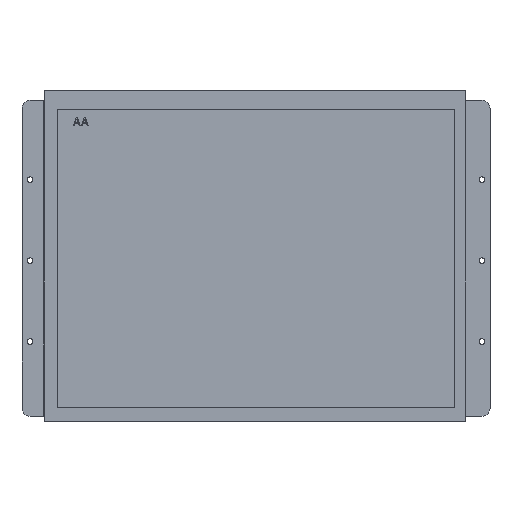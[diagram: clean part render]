
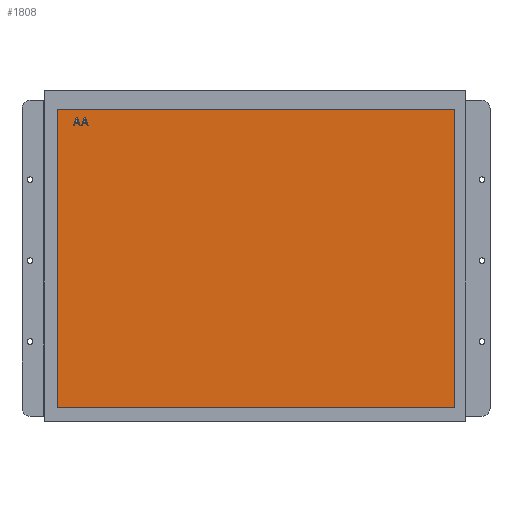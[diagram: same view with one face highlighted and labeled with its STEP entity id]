
A CAD part, top view. The second image highlights one B-rep face of the part: STEP entity #1808.
In plain terms, the highlighted planar face has unit normal (0, 0, 1).
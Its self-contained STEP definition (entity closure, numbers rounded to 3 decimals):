
#530=DIRECTION('',(0.,-1.,0.));
#531=VECTOR('',#530,184.32);
#532=CARTESIAN_POINT('',(-122.88,92.15,6.55));
#533=LINE('',#532,#531);
#534=DIRECTION('',(-1.,0.,0.));
#535=VECTOR('',#534,245.76);
#536=CARTESIAN_POINT('',(122.88,92.15,6.55));
#537=LINE('',#536,#535);
#538=DIRECTION('',(0.,1.,0.));
#539=VECTOR('',#538,184.32);
#540=CARTESIAN_POINT('',(122.88,-92.17,6.55));
#541=LINE('',#540,#539);
#542=DIRECTION('',(1.,0.,0.));
#543=VECTOR('',#542,245.76);
#544=CARTESIAN_POINT('',(-122.88,-92.17,6.55));
#545=LINE('',#544,#543);
#546=DIRECTION('',(0.316,-0.949,0.));
#547=VECTOR('',#546,5.27);
#548=CARTESIAN_POINT('',(-110.38,87.15,6.55));
#549=LINE('',#548,#547);
#550=DIRECTION('',(1.,0.,0.));
#551=VECTOR('',#550,0.833);
#552=CARTESIAN_POINT('',(-111.213,87.15,6.55));
#553=LINE('',#552,#551);
#554=DIRECTION('',(0.316,0.949,0.));
#555=VECTOR('',#554,5.27);
#556=CARTESIAN_POINT('',(-112.88,82.15,6.55));
#557=LINE('',#556,#555);
#558=DIRECTION('',(-1.,0.,0.));
#559=VECTOR('',#558,0.625);
#560=CARTESIAN_POINT('',(-112.255,82.15,6.55));
#561=LINE('',#560,#559);
#562=DIRECTION('',(-0.31,-0.951,0.));
#563=VECTOR('',#562,1.343);
#564=CARTESIAN_POINT('',(-111.838,83.427,6.55));
#565=LINE('',#564,#563);
#566=DIRECTION('',(-1.,0.,0.));
#567=VECTOR('',#566,2.083);
#568=CARTESIAN_POINT('',(-109.755,83.427,6.55));
#569=LINE('',#568,#567);
#570=DIRECTION('',(-0.31,0.951,0.));
#571=VECTOR('',#570,1.343);
#572=CARTESIAN_POINT('',(-109.338,82.15,6.55));
#573=LINE('',#572,#571);
#574=DIRECTION('',(-1.,0.,0.));
#575=VECTOR('',#574,0.625);
#576=CARTESIAN_POINT('',(-108.713,82.15,6.55));
#577=LINE('',#576,#575);
#590=DIRECTION('',(0.316,-0.949,0.));
#591=VECTOR('',#590,5.27);
#592=CARTESIAN_POINT('',(-105.38,87.15,6.55));
#593=LINE('',#592,#591);
#594=DIRECTION('',(1.,0.,0.));
#595=VECTOR('',#594,0.833);
#596=CARTESIAN_POINT('',(-106.213,87.15,6.55));
#597=LINE('',#596,#595);
#598=DIRECTION('',(0.316,0.949,0.));
#599=VECTOR('',#598,5.27);
#600=CARTESIAN_POINT('',(-107.88,82.15,6.55));
#601=LINE('',#600,#599);
#602=DIRECTION('',(-1.,0.,0.));
#603=VECTOR('',#602,0.625);
#604=CARTESIAN_POINT('',(-107.255,82.15,6.55));
#605=LINE('',#604,#603);
#606=DIRECTION('',(-0.31,-0.951,0.));
#607=VECTOR('',#606,1.343);
#608=CARTESIAN_POINT('',(-106.838,83.427,6.55));
#609=LINE('',#608,#607);
#610=DIRECTION('',(-1.,0.,0.));
#611=VECTOR('',#610,2.083);
#612=CARTESIAN_POINT('',(-104.755,83.427,6.55));
#613=LINE('',#612,#611);
#614=DIRECTION('',(-0.31,0.951,0.));
#615=VECTOR('',#614,1.343);
#616=CARTESIAN_POINT('',(-104.338,82.15,6.55));
#617=LINE('',#616,#615);
#618=DIRECTION('',(-1.,0.,0.));
#619=VECTOR('',#618,0.625);
#620=CARTESIAN_POINT('',(-103.713,82.15,6.55));
#621=LINE('',#620,#619);
#810=CARTESIAN_POINT('',(-122.88,92.15,6.55));
#811=CARTESIAN_POINT('',(-122.88,-92.17,6.55));
#812=VERTEX_POINT('',#810);
#813=VERTEX_POINT('',#811);
#814=CARTESIAN_POINT('',(122.88,-92.17,6.55));
#815=VERTEX_POINT('',#814);
#816=CARTESIAN_POINT('',(122.88,92.15,6.55));
#817=VERTEX_POINT('',#816);
#826=CARTESIAN_POINT('',(-110.38,87.15,6.55));
#827=CARTESIAN_POINT('',(-108.713,82.15,6.55));
#828=VERTEX_POINT('',#826);
#829=VERTEX_POINT('',#827);
#830=CARTESIAN_POINT('',(-109.338,82.15,6.55));
#831=VERTEX_POINT('',#830);
#832=CARTESIAN_POINT('',(-109.755,83.427,6.55));
#833=VERTEX_POINT('',#832);
#834=CARTESIAN_POINT('',(-111.838,83.427,6.55));
#835=VERTEX_POINT('',#834);
#836=CARTESIAN_POINT('',(-112.255,82.15,6.55));
#837=VERTEX_POINT('',#836);
#838=CARTESIAN_POINT('',(-112.88,82.15,6.55));
#839=VERTEX_POINT('',#838);
#840=CARTESIAN_POINT('',(-111.213,87.15,6.55));
#841=VERTEX_POINT('',#840);
#848=CARTESIAN_POINT('',(-105.38,87.15,6.55));
#849=CARTESIAN_POINT('',(-103.713,82.15,6.55));
#850=VERTEX_POINT('',#848);
#851=VERTEX_POINT('',#849);
#852=CARTESIAN_POINT('',(-104.338,82.15,6.55));
#853=VERTEX_POINT('',#852);
#854=CARTESIAN_POINT('',(-104.755,83.427,6.55));
#855=VERTEX_POINT('',#854);
#856=CARTESIAN_POINT('',(-106.838,83.427,6.55));
#857=VERTEX_POINT('',#856);
#858=CARTESIAN_POINT('',(-107.255,82.15,6.55));
#859=VERTEX_POINT('',#858);
#860=CARTESIAN_POINT('',(-107.88,82.15,6.55));
#861=VERTEX_POINT('',#860);
#862=CARTESIAN_POINT('',(-106.213,87.15,6.55));
#863=VERTEX_POINT('',#862);
#1761=CARTESIAN_POINT('',(-131.,-100.61,6.55));
#1762=DIRECTION('',(0.,0.,1.));
#1763=DIRECTION('',(1.,0.,0.));
#1764=AXIS2_PLACEMENT_3D('',#1761,#1762,#1763);
#1765=PLANE('',#1764);
#1766=ORIENTED_EDGE('',*,*,#1713,.F.);
#1767=ORIENTED_EDGE('',*,*,#1728,.F.);
#1768=ORIENTED_EDGE('',*,*,#1742,.F.);
#1769=ORIENTED_EDGE('',*,*,#1755,.F.);
#1770=EDGE_LOOP('',(#1766,#1767,#1768,#1769));
#1771=FACE_OUTER_BOUND('',#1770,.F.);
#1773=ORIENTED_EDGE('',*,*,#1772,.F.);
#1775=ORIENTED_EDGE('',*,*,#1774,.F.);
#1777=ORIENTED_EDGE('',*,*,#1776,.F.);
#1779=ORIENTED_EDGE('',*,*,#1778,.F.);
#1781=ORIENTED_EDGE('',*,*,#1780,.F.);
#1783=ORIENTED_EDGE('',*,*,#1782,.F.);
#1785=ORIENTED_EDGE('',*,*,#1784,.F.);
#1787=ORIENTED_EDGE('',*,*,#1786,.F.);
#1788=EDGE_LOOP('',(#1773,#1775,#1777,#1779,#1781,#1783,#1785,#1787));
#1789=FACE_BOUND('',#1788,.F.);
#1791=ORIENTED_EDGE('',*,*,#1790,.F.);
#1793=ORIENTED_EDGE('',*,*,#1792,.F.);
#1795=ORIENTED_EDGE('',*,*,#1794,.F.);
#1797=ORIENTED_EDGE('',*,*,#1796,.F.);
#1799=ORIENTED_EDGE('',*,*,#1798,.F.);
#1801=ORIENTED_EDGE('',*,*,#1800,.F.);
#1803=ORIENTED_EDGE('',*,*,#1802,.F.);
#1805=ORIENTED_EDGE('',*,*,#1804,.F.);
#1806=EDGE_LOOP('',(#1791,#1793,#1795,#1797,#1799,#1801,#1803,#1805));
#1807=FACE_BOUND('',#1806,.F.);
#1713=EDGE_CURVE('',#812,#813,#533,.T.);
#1728=EDGE_CURVE('',#817,#812,#537,.T.);
#1742=EDGE_CURVE('',#815,#817,#541,.T.);
#1755=EDGE_CURVE('',#813,#815,#545,.T.);
#1772=EDGE_CURVE('',#828,#829,#549,.T.);
#1774=EDGE_CURVE('',#841,#828,#553,.T.);
#1776=EDGE_CURVE('',#839,#841,#557,.T.);
#1778=EDGE_CURVE('',#837,#839,#561,.T.);
#1780=EDGE_CURVE('',#835,#837,#565,.T.);
#1782=EDGE_CURVE('',#833,#835,#569,.T.);
#1784=EDGE_CURVE('',#831,#833,#573,.T.);
#1786=EDGE_CURVE('',#829,#831,#577,.T.);
#1790=EDGE_CURVE('',#850,#851,#593,.T.);
#1792=EDGE_CURVE('',#863,#850,#597,.T.);
#1794=EDGE_CURVE('',#861,#863,#601,.T.);
#1796=EDGE_CURVE('',#859,#861,#605,.T.);
#1798=EDGE_CURVE('',#857,#859,#609,.T.);
#1800=EDGE_CURVE('',#855,#857,#613,.T.);
#1802=EDGE_CURVE('',#853,#855,#617,.T.);
#1804=EDGE_CURVE('',#851,#853,#621,.T.);
#1808=ADVANCED_FACE('',(#1771,#1789,#1807),#1765,.T.);
